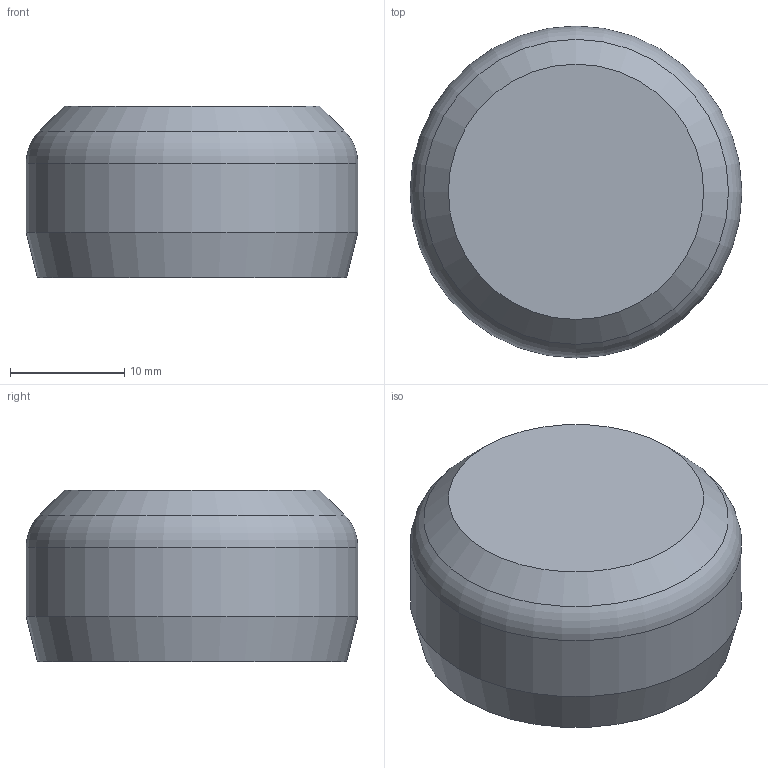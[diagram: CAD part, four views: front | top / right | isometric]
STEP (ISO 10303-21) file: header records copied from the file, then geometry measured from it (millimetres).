
FILE_DESCRIPTION(('FreeCAD Model'),'2;1');
FILE_NAME('Open CASCADE Shape Model','2026-01-16T16:27:48',('Author'),( ''),'Open CASCADE STEP processor 7.8','FreeCAD','Unknown');
FILE_SCHEMA(('AUTOMOTIVE_DESIGN { 1 0 10303 214 1 1 1 1 }'));
Length unit declared in the file: millimetre
Products named in the file (1): pipe_top_cap
Bounding box: 29 x 29 x 15 mm (x, y, z)
Volume: 5159.8 mm3; surface area: 3552.7 mm2
Topology: 1 solids, 1 shells, 12 faces, 18 edges, 11 vertices
Faces by surface type: plane 5, cone 4, cylinder 2, torus 1
Full cylindrical faces by diameter (mm): 25 x1, 29 x1
Entity records: 292 total; most frequent: DIRECTION 56, CARTESIAN_POINT 42, ORIENTED_EDGE 36, AXIS2_PLACEMENT_3D 25, EDGE_CURVE 18, FACE_BOUND 15, EDGE_LOOP 15, ADVANCED_FACE 12
